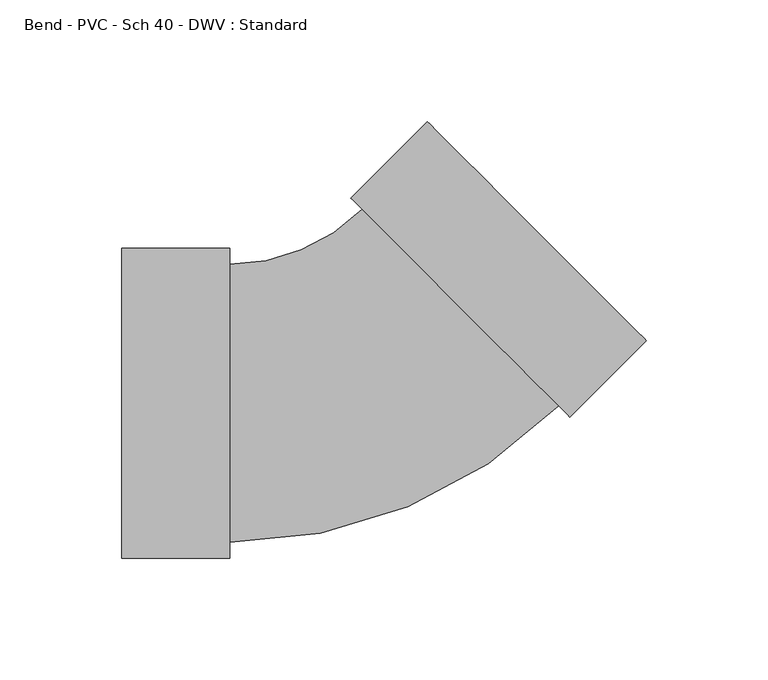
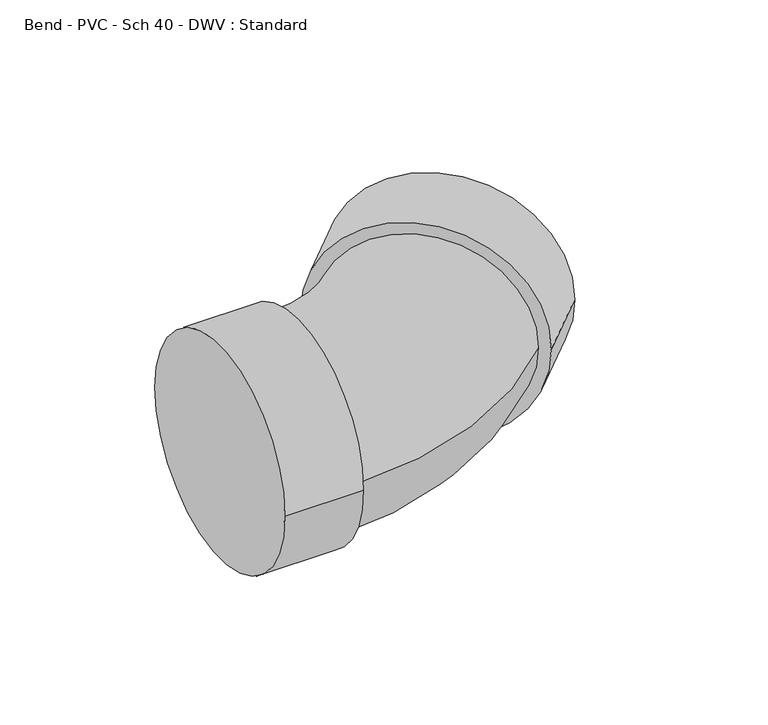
"""IFC4 building model written with IfcOpenShell, lengths in millimetres: pipe fitting geometry, Bend - PVC - Sch 40 - DWV : Standard."""

from ifc_helpers import new_model, si_unit, point, frame, origin, place, context, project, spatial, circle_curve, ellipse_curve, trimmed, source, transform, mapped, element, save
from ifc_brep_helpers import plane_surface, cylinder_surface, revolved_surface, advanced_brep


def bend_pvc_sch_40_dwv_standard_edab7eab(model_context):
    return source(origin(), model_context, "Body", "AdvancedBrep", [
        advanced_brep(
        [(-100.0252, -63.754, 0.0), (-100.0252, 63.754, 0.0), (-55.5752, -63.754, 0.0), (-55.5752, 63.754, 0.0), (-55.5752, -57.15, 0.0), (-55.5752, 57.15, 0.0), (-1.1018746, 79.7089156, 0.0), (79.7085893, -1.1252289, 0.0), (84.3776384, -5.7956461, 0.0), (-5.7709236, 84.3793328, 0.0), (115.813139, 25.6306454, 0.0), (25.664577, 115.8056244, 0.0)],
        [
            (0, 1, circle_curve(frame((-100.0252, 0.0, 0.0), z_axis=(-1.0, 0.0, 0.0), x_axis=(0.0, 1.0, 0.0)), 63.754)),
            (1, 0, circle_curve(frame((-100.0252, 0.0, 0.0), z_axis=(-1.0, 0.0, 0.0), x_axis=(0.0, 1.0, 0.0)), 63.754)),
            (2, 3, circle_curve(frame((-55.5752, 0.0, 0.0), z_axis=(1.0, 0.0, 0.0), x_axis=(0.0, 1.0, 0.0)), 63.754)),
            (3, 2, circle_curve(frame((-55.5752, 0.0, 0.0), z_axis=(1.0, 0.0, 0.0), x_axis=(0.0, 1.0, 0.0)), 63.754)),
            (4, 5, circle_curve(frame((-55.5752, 0.0, 0.0), z_axis=(-1.0, 0.0, 0.0), x_axis=(0.0, 1.0, 0.0)), 57.15)),
            (5, 4, circle_curve(frame((-55.5752, 0.0, 0.0), z_axis=(-1.0, 0.0, 0.0), x_axis=(0.0, 1.0, 0.0)), 57.15)),
            (0, 2),
            (3, 1),
            (6, 5, circle_curve(frame((-55.5752, 134.1982038, 0.0), z_axis=(0.0, 0.0, -1.0), x_axis=(0.0, -1.0, 0.0)), 77.0482038)),
            (4, 7, circle_curve(frame((-55.5752, 134.1982038, 0.0), z_axis=(0.0, 0.0, 1.0), x_axis=(0.0, -1.0, 0.0)), 191.3482038)),
            (7, 6, circle_curve(frame((39.3033574, 39.2918434, 0.0), z_axis=(-0.7072103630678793, -0.7070031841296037, 0.0), x_axis=(-0.7070031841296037, 0.7072103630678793, 0.0)), 57.15)),
            (6, 7, circle_curve(frame((39.3033574, 39.2918434, 0.0), z_axis=(-0.7072103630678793, -0.7070031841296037, 0.0), x_axis=(-0.7070031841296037, 0.7072103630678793, 0.0)), 57.15)),
            (8, 9, circle_curve(frame((39.3033574, 39.2918434, 0.0), z_axis=(-0.7072103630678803, -0.7070031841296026, 0.0), x_axis=(-0.7070031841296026, 0.7072103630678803, 0.0)), 63.754)),
            (9, 8, circle_curve(frame((39.3033574, 39.2918434, 0.0), z_axis=(-0.7072103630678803, -0.7070031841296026, 0.0), x_axis=(-0.7070031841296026, 0.7072103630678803, 0.0)), 63.754)),
            (10, 11, circle_curve(frame((70.738858, 70.7181349, 0.0), z_axis=(0.7072103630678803, 0.7070031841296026, 0.0), x_axis=(-0.7070031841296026, 0.7072103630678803, 0.0)), 63.754)),
            (11, 10, circle_curve(frame((70.738858, 70.7181349, 0.0), z_axis=(0.7072103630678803, 0.7070031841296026, 0.0), x_axis=(-0.7070031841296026, 0.7072103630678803, 0.0)), 63.754)),
            (8, 10),
            (11, 9),
        ],
        [
            plane_surface(frame((-100.0252, 0.0, 0.0), z_axis=(-1.0, 0.0, 0.0), x_axis=(0.0, 0.0, 1.0))),
            plane_surface(frame((-55.5752, 0.0, 0.0), z_axis=(1.0, 0.0, 0.0), x_axis=(0.0, 0.0, 1.0))),
            cylinder_surface(frame((-100.0252, 0.0, 0.0), z_axis=(-1.0, 0.0, 0.0), x_axis=(0.0, 1.0, 0.0)), 63.754),
            revolved_surface(trimmed(ellipse_curve(frame((-55.5752, 0.0, 0.0), z_axis=(-1.0, 0.0, 0.0), x_axis=(0.0, 1.0, 0.0)), 57.15, 57.15), [point((-55.5752, -57.15, 0.0))], [point((-55.5752, 57.15, 0.0))], True, "CARTESIAN"), (-55.5752, 134.1982038, 0.0), (0.0, 0.0, 1.0)),
            revolved_surface(trimmed(ellipse_curve(frame((-55.5752, 0.0, 0.0), z_axis=(-1.0, 0.0, 0.0), x_axis=(0.0, 1.0, 0.0)), 57.15, 57.15), [point((-55.5752, 57.15, 0.0))], [point((-55.5752, -57.15, 0.0))], True, "CARTESIAN"), (-55.5752, 134.1982038, 0.0), (0.0, 0.0, 1.0)),
            plane_surface(frame((39.3033574, 39.2918434, 0.0), z_axis=(-0.7072103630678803, -0.7070031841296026, 0.0), x_axis=(0.0, 0.0, 1.0))),
            plane_surface(frame((70.738858, 70.7181349, 0.0), z_axis=(0.7072103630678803, 0.7070031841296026, 0.0), x_axis=(0.0, 0.0, 1.0))),
            cylinder_surface(frame((39.3033574, 39.2918434, 0.0), z_axis=(-0.7072103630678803, -0.7070031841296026, 0.0), x_axis=(-0.7070031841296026, 0.7072103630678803, 0.0)), 63.754),
        ],
        [
            (0, [[1, 2]]),
            (1, [[3, 4], [5, 6]]),
            (2, [[-1, 7, -4, 8]]),
            (2, [[-2, -8, -3, -7]]),
            (3, [[9, -5, 10, 11]]),
            (4, [[-9, 12, -10, -6]]),
            (5, [[13, 14], [-11, -12]]),
            (6, [[15, 16]]),
            (7, [[-13, 17, -16, 18]]),
            (7, [[-14, -18, -15, -17]]),
        ],
    ),
    ])


if __name__ == "__main__":
    model = new_model("IFC4")
    model_context = context("Model", 3, world=origin())
    ifc_project = project(units=[si_unit("LENGTHUNIT", "METRE", prefix="MILLI")], contexts=[model_context])
    site = spatial("IfcSite", under=ifc_project)
    building = spatial("IfcBuilding", under=site)
    placement = place(None, origin())
    bend_pvc_sch_40_dwv_standard_shape = bend_pvc_sch_40_dwv_standard_edab7eab(model_context)
    element("IfcPipeFitting", 1, ObjectType="Bend - PVC - Sch 40 - DWV : Standard", at=placement, inside=building, context=model_context, shape_type="MappedRepresentation", body=[
        mapped(bend_pvc_sch_40_dwv_standard_shape, transform((0.0, 0.0, 0.0), x_axis=(1.0, 0.0, 0.0), y_axis=(0.0, 1.0, 0.0), z_axis=(0.0, 0.0, 1.0))),
    ])
    save(model, "model.ifc")
